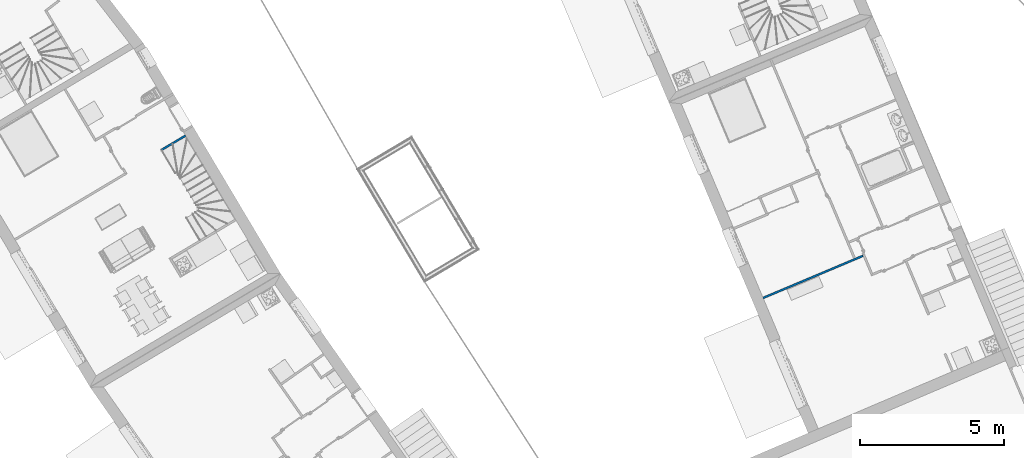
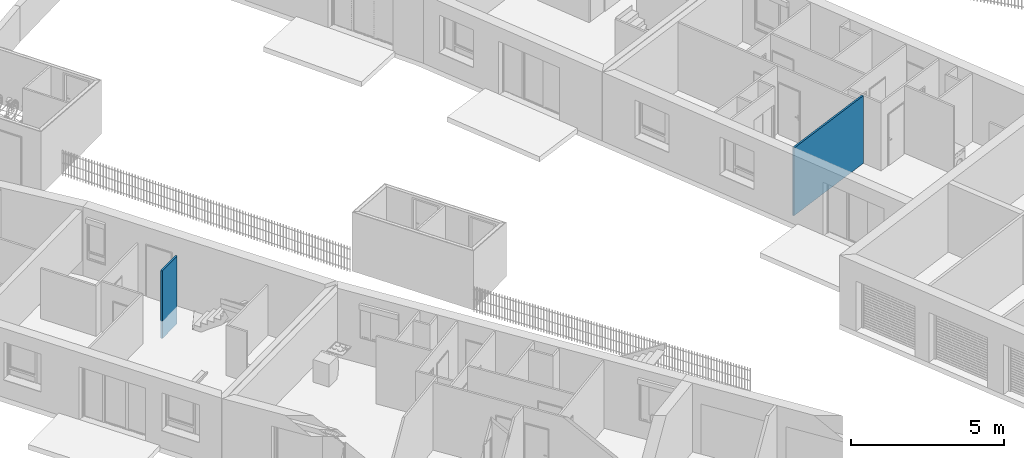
# One storey, part 49 of 195: 2 walls.
"""IFC2X3 building model written with IfcOpenShell, lengths in metres."""

from ifc_helpers import new_model, entity, si_unit, converted_unit, derived_unit, money_unit, direction, frame, origin_with_axes, place, context, subcontext, project, spatial, polyline, outline, extrude, material, layer, layer_set, layer_usage, type_object, element, save


model = new_model("IFC2X3")

# Units and contexts
model_context = context("Model", 3, precision=1e-05, world=origin_with_axes(), true_north=direction((0.0, 1.0)))
body_context = subcontext(model_context, "Body", "Model", "MODEL_VIEW")
ifc_project = project(units=[si_unit("LENGTHUNIT", "METRE"), si_unit("AREAUNIT", "SQUARE_METRE"), si_unit("VOLUMEUNIT", "CUBIC_METRE"), converted_unit("PLANEANGLEUNIT", "DEGREE", entity("IfcPlaneAngleMeasure", 0.0174532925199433), si_unit("PLANEANGLEUNIT", "RADIAN"), dimensions=[0, 0, 0, 0, 0, 0, 0]), money_unit("CHF"), converted_unit("TIMEUNIT", "Year", entity("IfcTimeMeasure", 31557600.0), si_unit("TIMEUNIT", "SECOND"), dimensions=[0, 0, 1, 0, 0, 0, 0]), si_unit("MASSUNIT", "GRAM", prefix="KILO"), si_unit("THERMODYNAMICTEMPERATUREUNIT", "DEGREE_CELSIUS"), si_unit("LUMINOUSINTENSITYUNIT", "LUMEN"), si_unit("ENERGYUNIT", "JOULE", prefix="MEGA"), derived_unit("THERMALCONDUCTANCEUNIT", [(si_unit("POWERUNIT", "WATT"), 1), (si_unit("LENGTHUNIT", "METRE"), -1), (si_unit("THERMODYNAMICTEMPERATUREUNIT", "KELVIN"), -1)]), derived_unit("SPECIFICHEATCAPACITYUNIT", [(si_unit("ENERGYUNIT", "JOULE"), 1), (si_unit("MASSUNIT", "GRAM", prefix="KILO"), -1), (si_unit("THERMODYNAMICTEMPERATUREUNIT", "KELVIN"), -1)]), derived_unit("MASSDENSITYUNIT", [(si_unit("MASSUNIT", "GRAM", prefix="KILO"), 1), (si_unit("VOLUMEUNIT", "CUBIC_METRE"), -1)])], contexts=[model_context])

# Site, building, storey
site_placement = place(None, origin_with_axes())
site = spatial("IfcSite", under=ifc_project, at=site_placement, Name="Site", CompositionType="ELEMENT")
building_placement = place(site_placement, origin_with_axes())
building = spatial("IfcBuilding", under=site, at=building_placement, Name="Bâtiment", CompositionType="ELEMENT")
storey_placement = place(building_placement, origin_with_axes())
storey = spatial("IfcBuildingStorey", under=building, at=storey_placement, Name="rdc", CompositionType="ELEMENT", Elevation=0.0)

# Walls
ifc_material = material(Name="Hachure solide 268963992")
ifc_layer = layer(ifc_material, 0.07, ventilated="UNKNOWN")
ifc_layer_set = layer_set([ifc_layer], Name="Cloison 70 0826278243")
ifc_layer_usage_1 = layer_usage(ifc_layer_set, "AXIS2", "POSITIVE", 0.0)
wall_type = type_object("IfcWallType", Name="Cloison 70 0826278243 70", PredefinedType="NOTDEFINED")
wall_1_placement = place(storey_placement, frame((9545.698728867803, -1047.027277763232, 57.0), z_axis=(0.0, 0.0, 1.0), x_axis=(0.859086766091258, 0.5118299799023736, 0.0)))
element("IfcWallStandardCase", 1, at=wall_1_placement, inside=storey, type_object=wall_type, material=ifc_layer_usage_1, Name="Mur-149", context=body_context, shape_type="SweptSolid", body=[
    extrude(outline(polyline([(0.0, 0.0), (0.9893754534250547, 0.0), (0.9893754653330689, 0.06999999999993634), (0.0, 0.06999999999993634), (0.0, 0.0)])), origin_with_axes(), (0.0, 0.0, 1.0), 2.7),
])
ifc_layer_usage_2 = layer_usage(ifc_layer_set, "AXIS2", "POSITIVE", 0.0)
wall_2_placement = place(storey_placement, frame((9570.01350188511, -1050.628433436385, 57.7), z_axis=(0.0, 0.0, 1.0), x_axis=(-0.9214205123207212, -0.3885669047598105, 0.0)))
element("IfcWallStandardCase", 2, at=wall_2_placement, inside=storey, type_object=wall_type, material=ifc_layer_usage_2, Name="Mur-149", context=body_context, shape_type="SweptSolid", body=[
    extrude(outline(polyline([(-3.678906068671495e-10, 0.0), (3.761145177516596, 0.0), (3.761145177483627, 0.06999999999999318), (-4.018829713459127e-10, 0.06999999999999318), (-3.678906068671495e-10, 0.0)])), origin_with_axes(), (0.0, 0.0, 1.0), 2.7),
])

save(model, "model.ifc")
